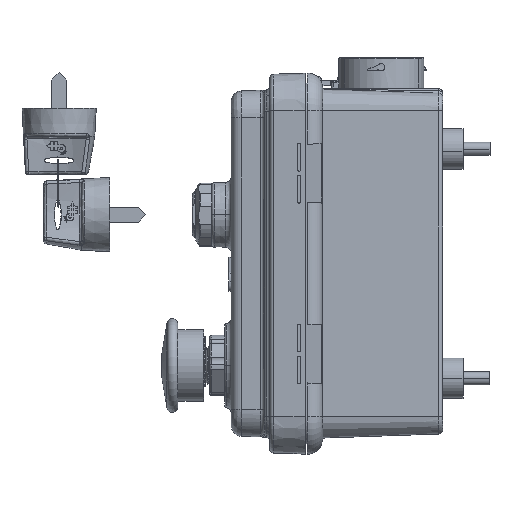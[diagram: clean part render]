
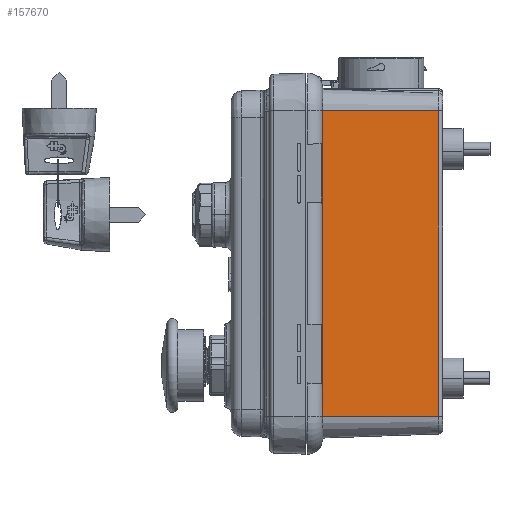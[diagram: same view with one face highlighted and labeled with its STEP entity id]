
A CAD part, left-side view. The second image highlights one B-rep face of the part: STEP entity #157670.
In plain terms, the highlighted planar face has unit normal (-0.999, -0.035, 0).
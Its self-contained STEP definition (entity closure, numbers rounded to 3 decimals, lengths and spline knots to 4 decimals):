
#913 = ORIENTED_EDGE ( 'NONE', *, *, #41774, .F. ) ;
#2701 = DIRECTION ( 'NONE',  ( 0.035, -0.999, 0. ) ) ;
#12611 = VECTOR ( 'NONE', #2701, 39.3701 ) ;
#19898 = EDGE_LOOP ( 'NONE', ( #179414, #157474, #160370, #913 ) ) ;
#30003 = CARTESIAN_POINT ( 'NONE',  ( -4.2241, 0.076, -0.9461 ) ) ;
#32485 = CARTESIAN_POINT ( 'NONE',  ( -4.2991, 2.2263, -0.9461 ) ) ;
#38403 = LINE ( 'NONE', #43496, #141254 ) ;
#40726 = CARTESIAN_POINT ( 'NONE',  ( -4.2214, 0., -0.9461 ) ) ;
#41774 = EDGE_CURVE ( 'NONE', #83156, #124219, #38403, .T. ) ;
#43496 = CARTESIAN_POINT ( 'NONE',  ( -4.2991, 2.2263, -0.947 ) ) ;
#44349 = DIRECTION ( 'NONE',  ( 0., 0., 1. ) ) ;
#51783 = VECTOR ( 'NONE', #207949, 39.3701 ) ;
#59961 = VERTEX_POINT ( 'NONE', #30003 ) ;
#63543 = VERTEX_POINT ( 'NONE', #218102 ) ;
#64083 = CARTESIAN_POINT ( 'NONE',  ( -4.2241, 0.076, -0.9461 ) ) ;
#76008 = AXIS2_PLACEMENT_3D ( 'NONE', #40726, #163813, #225851 ) ;
#83156 = VERTEX_POINT ( 'NONE', #32485 ) ;
#90261 = EDGE_CURVE ( 'NONE', #124219, #63543, #115572, .T. ) ;
#91751 = CARTESIAN_POINT ( 'NONE',  ( -4.2214, 0., -0.9461 ) ) ;
#105265 = CARTESIAN_POINT ( 'NONE',  ( -4.2214, 0., 4.7216 ) ) ;
#112848 = LINE ( 'NONE', #64083, #51783 ) ;
#115572 = LINE ( 'NONE', #105265, #12611 ) ;
#124219 = VERTEX_POINT ( 'NONE', #177380 ) ;
#141254 = VECTOR ( 'NONE', #44349, 39.3701 ) ;
#153717 = EDGE_CURVE ( 'NONE', #83156, #59961, #156015, .T. ) ;
#156015 = LINE ( 'NONE', #91751, #258976 ) ;
#157474 = ORIENTED_EDGE ( 'NONE', *, *, #174633, .T. ) ;
#157670 = ADVANCED_FACE ( 'NONE', ( #259589 ), #205131, .T. ) ;
#160370 = ORIENTED_EDGE ( 'NONE', *, *, #90261, .F. ) ;
#163813 = DIRECTION ( 'NONE',  ( -0.999, -0.035, 0. ) ) ;
#174633 = EDGE_CURVE ( 'NONE', #59961, #63543, #112848, .T. ) ;
#177380 = CARTESIAN_POINT ( 'NONE',  ( -4.2991, 2.2263, 4.7216 ) ) ;
#179414 = ORIENTED_EDGE ( 'NONE', *, *, #153717, .T. ) ;
#205131 = PLANE ( 'NONE',  #76008 ) ;
#207949 = DIRECTION ( 'NONE',  ( 0., 0., 1. ) ) ;
#218102 = CARTESIAN_POINT ( 'NONE',  ( -4.2241, 0.076, 4.7216 ) ) ;
#225851 = DIRECTION ( 'NONE',  ( -0.035, 0.999, 0. ) ) ;
#256319 = DIRECTION ( 'NONE',  ( 0.035, -0.999, 0. ) ) ;
#258976 = VECTOR ( 'NONE', #256319, 39.3701 ) ;
#259589 = FACE_OUTER_BOUND ( 'NONE', #19898, .T. ) ;
